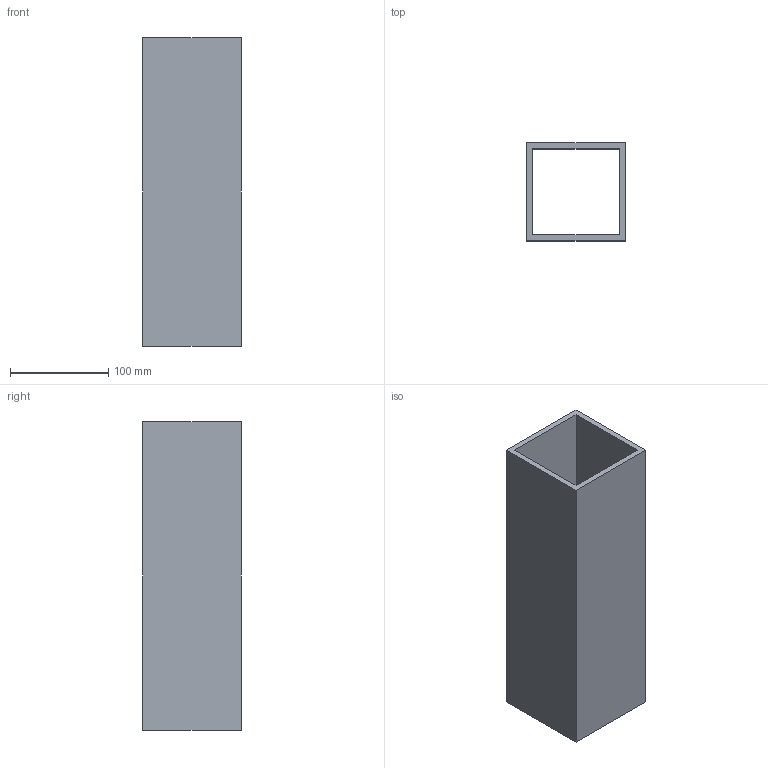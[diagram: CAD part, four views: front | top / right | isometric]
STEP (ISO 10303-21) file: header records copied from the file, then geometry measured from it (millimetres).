
FILE_DESCRIPTION(('Open CASCADE Model'),'2;1');
FILE_NAME('Open CASCADE Shape Model','2026-09-19T12:55:25',('Author'),( 'Open CASCADE'),'Open CASCADE STEP processor 7.9','Open CASCADE 7.9' ,'Unknown');
FILE_SCHEMA(('AUTOMOTIVE_DESIGN { 1 0 10303 214 1 1 1 1 }'));
Length unit declared in the file: millimetre
Products named in the file (1): Open CASCADE STEP translator 7.9 479
Bounding box: 100 x 100 x 314 mm (x, y, z)
Volume: 708384 mm3; surface area: 240640 mm2
Topology: 1 solids, 1 shells, 10 faces, 24 edges, 16 vertices
Faces by surface type: plane 10
Entity records: 614 total; most frequent: CARTESIAN_POINT 99, DIRECTION 94, LINE 72, VECTOR 72, ORIENTED_EDGE 48, PCURVE 48, DEFINITIONAL_REPRESENTATION 48, EDGE_CURVE 24
